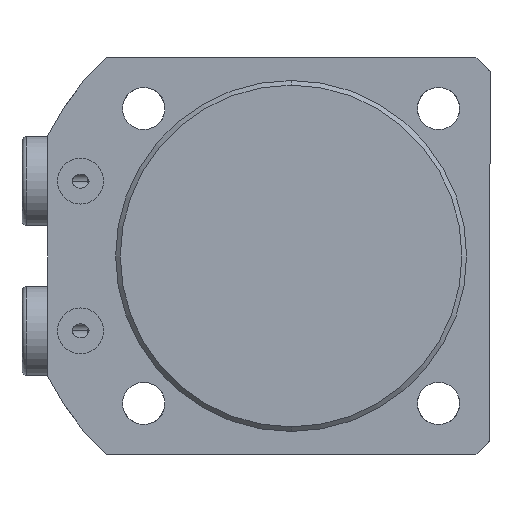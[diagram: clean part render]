
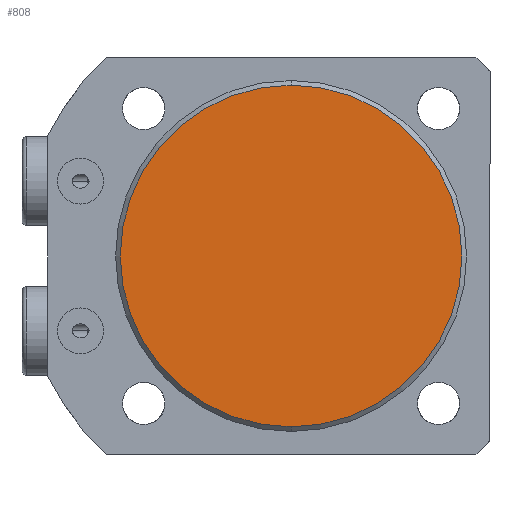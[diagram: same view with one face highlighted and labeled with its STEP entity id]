
A CAD part, front view. The second image highlights one B-rep face of the part: STEP entity #808.
In plain terms, the highlighted planar face has unit normal (0, -1, 0).
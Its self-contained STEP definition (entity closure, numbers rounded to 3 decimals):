
#275 = DIRECTION ( 'NONE',  ( 0., 1., 0. ) ) ;
#808 = ADVANCED_FACE ( 'NONE', ( #3352 ), #3729, .F. ) ;
#889 = AXIS2_PLACEMENT_3D ( 'NONE', #964, #5110, #1569 ) ;
#964 = CARTESIAN_POINT ( 'NONE',  ( 0., 0., 0. ) ) ;
#1456 = CIRCLE ( 'NONE', #889, 36.5 ) ;
#1569 = DIRECTION ( 'NONE',  ( 0., 0., 1. ) ) ;
#1988 = DIRECTION ( 'NONE',  ( 0., 0., 1. ) ) ;
#2015 = CARTESIAN_POINT ( 'NONE',  ( 0., 0., 0. ) ) ;
#2034 = VERTEX_POINT ( 'NONE', #4208 ) ;
#2290 = VERTEX_POINT ( 'NONE', #3230 ) ;
#2446 = AXIS2_PLACEMENT_3D ( 'NONE', #2015, #275, #1988 ) ;
#2490 = EDGE_CURVE ( 'NONE', #2290, #2034, #2587, .T. ) ;
#2509 = DIRECTION ( 'NONE',  ( 0., 0., 1. ) ) ;
#2517 = DIRECTION ( 'NONE',  ( 0., -1., 0. ) ) ;
#2519 = CARTESIAN_POINT ( 'NONE',  ( 0., 0., 0. ) ) ;
#2587 = CIRCLE ( 'NONE', #3937, 36.5 ) ;
#3230 = CARTESIAN_POINT ( 'NONE',  ( 0., 0., -36.5 ) ) ;
#3352 = FACE_OUTER_BOUND ( 'NONE', #4947, .T. ) ;
#3729 = PLANE ( 'NONE',  #2446 ) ;
#3937 = AXIS2_PLACEMENT_3D ( 'NONE', #2519, #2517, #2509 ) ;
#4111 = ORIENTED_EDGE ( 'NONE', *, *, #6732, .T. ) ;
#4208 = CARTESIAN_POINT ( 'NONE',  ( 0., 0., 36.5 ) ) ;
#4947 = EDGE_LOOP ( 'NONE', ( #4111, #6557 ) ) ;
#5110 = DIRECTION ( 'NONE',  ( 0., -1., 0. ) ) ;
#6557 = ORIENTED_EDGE ( 'NONE', *, *, #2490, .T. ) ;
#6732 = EDGE_CURVE ( 'NONE', #2034, #2290, #1456, .T. ) ;
